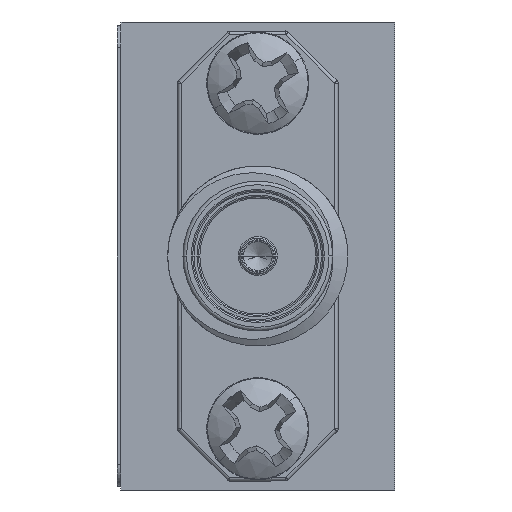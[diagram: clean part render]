
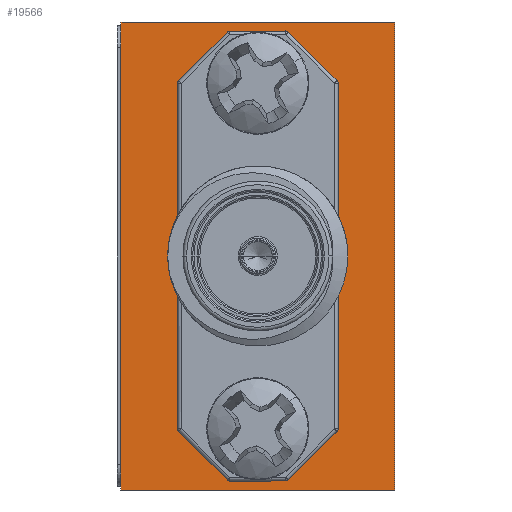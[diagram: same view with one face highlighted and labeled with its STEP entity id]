
A CAD part, left-side view. The second image highlights one B-rep face of the part: STEP entity #19566.
In plain terms, the highlighted planar face has unit normal (-1, 0, 0).
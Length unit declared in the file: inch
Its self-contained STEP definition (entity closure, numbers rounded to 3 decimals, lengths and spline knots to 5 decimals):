
#843 = VERTEX_POINT ( 'NONE', #5368 ) ;
#1635 = CARTESIAN_POINT ( 'NONE',  ( -1.28148, -0.30725, 0.34789 ) ) ;
#1892 = LINE ( 'NONE', #19478, #31785 ) ;
#3562 = PLANE ( 'NONE',  #8038 ) ;
#5368 = CARTESIAN_POINT ( 'NONE',  ( -1.28148, 0.07275, 0.34789 ) ) ;
#6067 = CARTESIAN_POINT ( 'NONE',  ( -1.28148, 0.07275, 0.34789 ) ) ;
#6241 = VERTEX_POINT ( 'NONE', #17243 ) ;
#6641 = VECTOR ( 'NONE', #18987, 39.37008 ) ;
#6775 = VERTEX_POINT ( 'NONE', #21767 ) ;
#8038 = AXIS2_PLACEMENT_3D ( 'NONE', #6067, #23980, #16102 ) ;
#8808 = CARTESIAN_POINT ( 'NONE',  ( -1.28148, 0.07275, 0.34789 ) ) ;
#9449 = ORIENTED_EDGE ( 'NONE', *, *, #24816, .F. ) ;
#10947 = EDGE_CURVE ( 'NONE', #6241, #843, #19024, .T. ) ;
#12803 = ORIENTED_EDGE ( 'NONE', *, *, #10947, .F. ) ;
#13817 = DIRECTION ( 'NONE',  ( 0., 0., 1. ) ) ;
#13888 = CARTESIAN_POINT ( 'NONE',  ( -1.28148, -0.30725, -0.30211 ) ) ;
#15235 = VECTOR ( 'NONE', #23927, 39.37008 ) ;
#16102 = DIRECTION ( 'NONE',  ( 0., 0., -1. ) ) ;
#16961 = DIRECTION ( 'NONE',  ( 0., -1., 0. ) ) ;
#17243 = CARTESIAN_POINT ( 'NONE',  ( -1.28148, 0.07275, -0.30211 ) ) ;
#18987 = DIRECTION ( 'NONE',  ( 0., -1., 0. ) ) ;
#19024 = LINE ( 'NONE', #8808, #31342 ) ;
#19478 = CARTESIAN_POINT ( 'NONE',  ( -1.28148, 0.07275, -0.30211 ) ) ;
#19566 = ADVANCED_FACE ( 'NONE', ( #28995 ), #3562, .F. ) ;
#21216 = ORIENTED_EDGE ( 'NONE', *, *, #24932, .T. ) ;
#21250 = ORIENTED_EDGE ( 'NONE', *, *, #31279, .T. ) ;
#21767 = CARTESIAN_POINT ( 'NONE',  ( -1.28148, -0.30725, 0.34789 ) ) ;
#23428 = VERTEX_POINT ( 'NONE', #13888 ) ;
#23927 = DIRECTION ( 'NONE',  ( 0., 0., 1. ) ) ;
#23980 = DIRECTION ( 'NONE',  ( 1., 0., 0. ) ) ;
#24435 = LINE ( 'NONE', #1635, #15235 ) ;
#24816 = EDGE_CURVE ( 'NONE', #843, #6775, #31873, .T. ) ;
#24932 = EDGE_CURVE ( 'NONE', #6241, #23428, #1892, .T. ) ;
#28384 = EDGE_LOOP ( 'NONE', ( #21250, #9449, #12803, #21216 ) ) ;
#28995 = FACE_OUTER_BOUND ( 'NONE', #28384, .T. ) ;
#31279 = EDGE_CURVE ( 'NONE', #23428, #6775, #24435, .T. ) ;
#31342 = VECTOR ( 'NONE', #13817, 39.37008 ) ;
#31687 = CARTESIAN_POINT ( 'NONE',  ( -1.28148, 0.07275, 0.34789 ) ) ;
#31785 = VECTOR ( 'NONE', #16961, 39.37008 ) ;
#31873 = LINE ( 'NONE', #31687, #6641 ) ;
